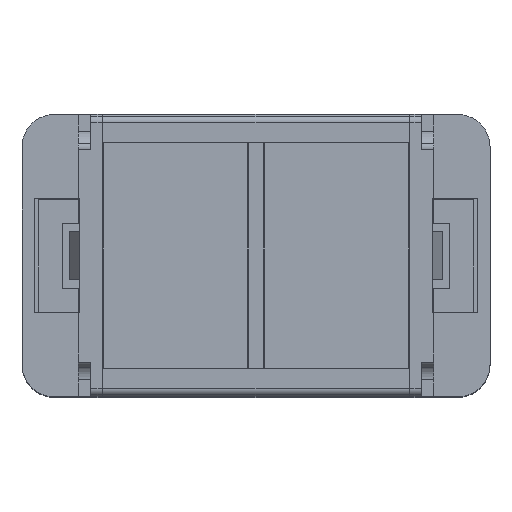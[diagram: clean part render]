
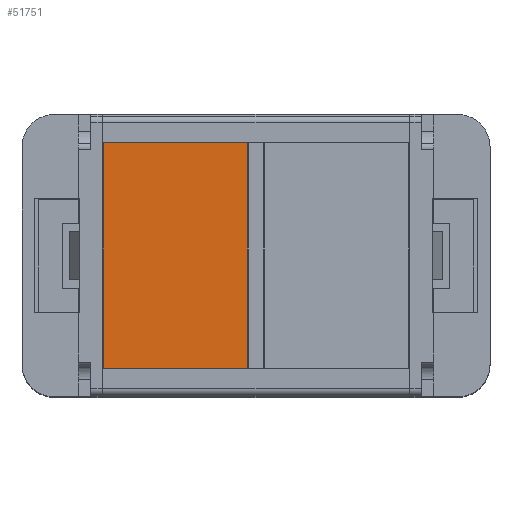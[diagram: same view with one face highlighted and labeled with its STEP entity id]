
A CAD part, top view. The second image highlights one B-rep face of the part: STEP entity #51751.
In plain terms, the highlighted planar face has unit normal (0, 0, 1).
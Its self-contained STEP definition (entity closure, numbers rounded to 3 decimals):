
#50826=CARTESIAN_POINT(' ',(-1.05,-14.,20.99));
#50827=VERTEX_POINT(' ',#50826);
#50841=CARTESIAN_POINT(' ',(-1.05,-14.,20.99));
#50846=DIRECTION(' ',(-1.,0.,0.));
#50851=VECTOR(' ',#50846,1.);
#50856=LINE('',#50841,#50851);
#50861=CARTESIAN_POINT(' ',(-18.95,-14.,20.99));
#50862=VERTEX_POINT(' ',#50861);
#50866=EDGE_CURVE(' ',#50827,#50862,#50856,.T.);
#51611=DIRECTION(' ',(0.,0.,1.));
#51616=CARTESIAN_POINT(' ',(-18.95,-14.,20.99));
#51621=DIRECTION(' ',(1.,0.,0.));
#51626=AXIS2_PLACEMENT_3D(' ',#51616,#51611,#51621);
#51631=PLANE('NONE',#51626);
#51636=CARTESIAN_POINT(' ',(-1.05,14.,20.99));
#51641=DIRECTION(' ',(-1.,0.,0.));
#51646=VECTOR(' ',#51641,1.);
#51651=LINE('',#51636,#51646);
#51656=CARTESIAN_POINT(' ',(-1.05,14.,20.99));
#51657=VERTEX_POINT(' ',#51656);
#51661=CARTESIAN_POINT(' ',(-18.95,14.,20.99));
#51662=VERTEX_POINT(' ',#51661);
#51666=EDGE_CURVE(' ',#51657,#51662,#51651,.T.);
#51671=ORIENTED_EDGE(' ',*,*,#51666,.T.);
#51676=CARTESIAN_POINT(' ',(-18.95,-14.,20.99));
#51681=DIRECTION(' ',(0.,1.,0.));
#51686=VECTOR(' ',#51681,1.);
#51691=LINE('',#51676,#51686);
#51696=EDGE_CURVE(' ',#50862,#51662,#51691,.T.);
#51701=ORIENTED_EDGE(' ',*,*,#51696,.F.);
#51706=ORIENTED_EDGE(' ',*,*,#50866,.F.);
#51711=CARTESIAN_POINT(' ',(-1.05,14.,20.99));
#51716=DIRECTION(' ',(0.,-1.,0.));
#51721=VECTOR(' ',#51716,1.);
#51726=LINE('',#51711,#51721);
#51731=EDGE_CURVE(' ',#51657,#50827,#51726,.T.);
#51736=ORIENTED_EDGE(' ',*,*,#51731,.F.);
#51741=EDGE_LOOP(' ',(#51671,#51701,#51706,#51736));
#51746=FACE_OUTER_BOUND(' ',#51741,.T.);
#51751=ADVANCED_FACE('NONE',(#51746),#51631,.T.);
